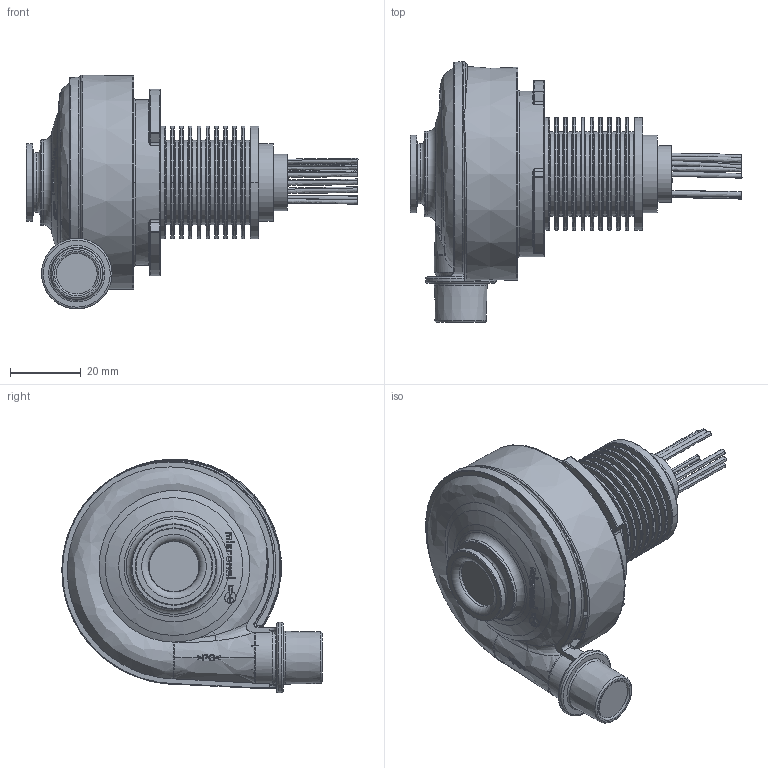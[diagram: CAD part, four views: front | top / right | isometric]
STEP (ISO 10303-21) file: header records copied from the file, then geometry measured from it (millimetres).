
FILE_DESCRIPTION(/* description */ (''),/* implementation_level */ '2;1');
FILE_NAME(/* name */ '020463_1-U65HN-024KS-6_simple _U65HN-024KS-6_.stp',/* time_stamp */ '2024-06-07T08:14:12+02:00',/* author */ (''),/* organization */ (''),/* preprocessor_version */ 'ST-DEVELOPER v16.7',/* originating_system */ 'SIEMENS PLM Software NX 1946',/* authorisation */ '');
FILE_SCHEMA (('AUTOMOTIVE_DESIGN { 1 0 10303 214 3 1 1 1 }'));
Length unit declared in the file: millimetre
Products named in the file (1): 020463_2-U65HN-024KS-6_simple _U65HN-024KS-6_
Bounding box: 94.17 x 73.79 x 66.34 mm (x, y, z)
Volume: 103512.1 mm3; surface area: 24272.7 mm2
Topology: 1 solids, 2 shells, 591 faces, 1467 edges, 918 vertices
Faces by surface type: plane 192, torus 132, cylinder 120, bspline 105, cone 21, extrusion 13, sphere 8
Full cylindrical faces by diameter (mm): 16 x1, 16.967 x1, 20 x1, 21.966 x1, 22 x1, 24 x10, 24.23 x1, 47 x1, 60.487 x1
Entity records: 27940 total; most frequent: CARTESIAN_POINT 10830, ORIENTED_EDGE 2796, DIRECTION 2592, EDGE_CURVE 1398, AXIS2_PLACEMENT_3D 1111, VERTEX_POINT 896, EDGE_LOOP 676, CIRCLE 615
